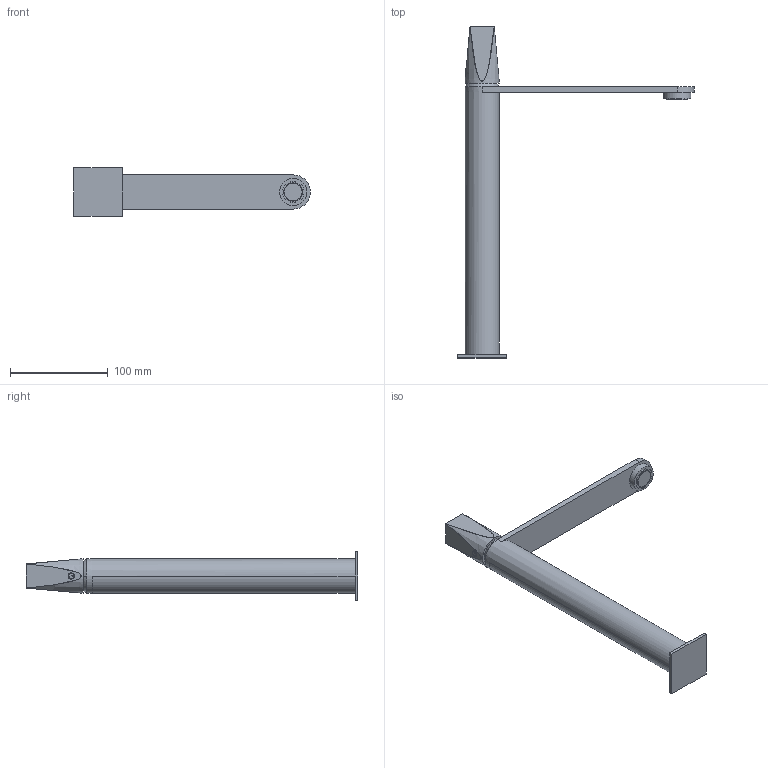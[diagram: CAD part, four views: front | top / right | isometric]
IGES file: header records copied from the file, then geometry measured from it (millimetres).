
Start section:  PTC IGES file: 49065.igs
Global section: file name: 49065.igs; native system: Creo Parametric by PTC Inc.; preprocessor: 2022014; author: carloff; organization: Unknown; date: 20230919.132533; units: millimetre
Bounding box: 242.5 x 340.24 x 50 mm (x, y, z)
Surface area: 59459.4 mm2 (no closed solid volume)
Topology: 0 solids, 0 shells, 62 faces, 310 edges, 308 vertices
Faces by surface type: revolution 31, bspline 31
